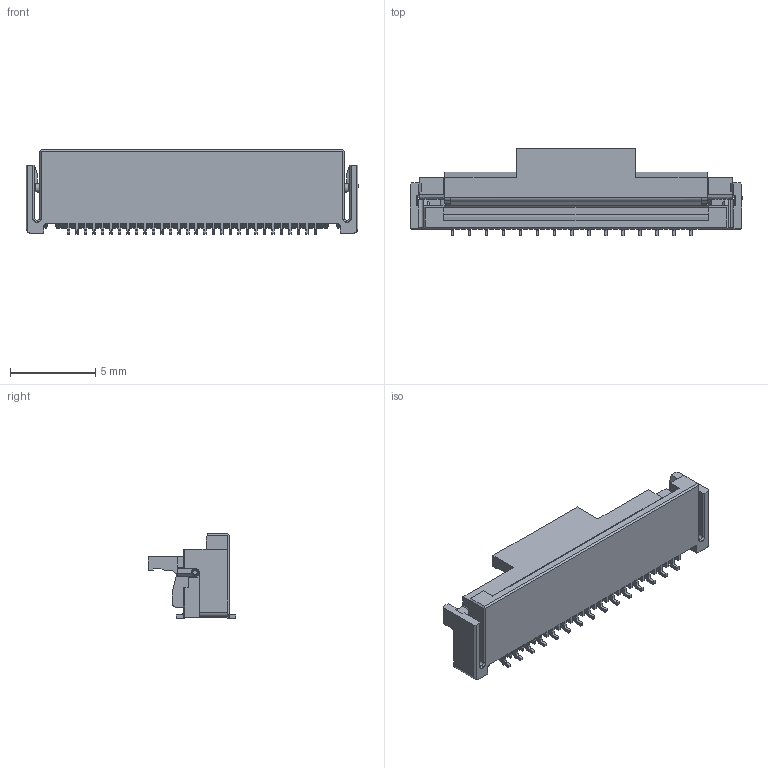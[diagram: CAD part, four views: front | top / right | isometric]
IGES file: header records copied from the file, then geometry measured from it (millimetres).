
Start section: SolidWorks IGES file using analytic representation for surfaces
Global section: file name: Q:\Kamikawa_Hisako\171006\6251\00_6251_0xx_010_846_+\00_6251_030_010_846+.IGS; native system: SolidWorks 2014; preprocessor: SolidWorks 2014; author: 151066016; date: 171017.142701; units: millimetre
Bounding box: 19.5 x 5.15 x 4.95 mm (x, y, z)
Surface area: 525.6 mm2 (no closed solid volume)
Topology: 0 solids, 0 shells, 757 faces, 5102 edges, 5101 vertices
Faces by surface type: bspline 602, revolution 155
